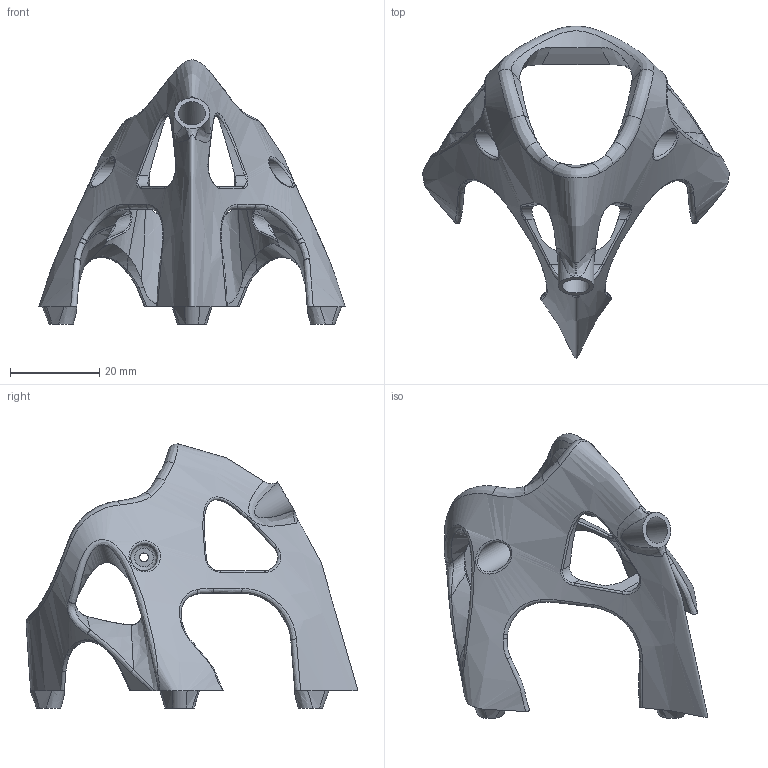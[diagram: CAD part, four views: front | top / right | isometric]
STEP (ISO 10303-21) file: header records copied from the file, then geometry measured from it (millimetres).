
FILE_DESCRIPTION(('FreeCAD Model'),'2;1');
FILE_NAME('Open CASCADE Shape Model','2023-04-06T17:10:51',(''),(''), 'Open CASCADE STEP processor 7.6','FreeCAD','Unknown');
FILE_SCHEMA(('AUTOMOTIVE_DESIGN { 1 0 10303 214 1 1 1 1 }'));
Products named in the file (1): Fusion323
Bounding box: 68.73 x 74.46 x 59.26 mm (x, y, z)
Volume: 17389.5 mm3; surface area: 11708.9 mm2
Topology: 1 solids, 1 shells, 216 faces, 577 edges, 346 vertices
Faces by surface type: bspline 169, plane 17, cylinder 12, cone 10, extrusion 6, revolution 2
Full cylindrical faces by diameter (mm): 2 x2, 6 x3
Entity records: 55671 total; most frequent: CARTESIAN_POINT 52285, ORIENTED_EDGE 1130, EDGE_CURVE 565, VERTEX_POINT 346, FACE_BOUND 227, EDGE_LOOP 227, ADVANCED_FACE 216, B_SPLINE_CURVE_WITH_KNOTS 212
